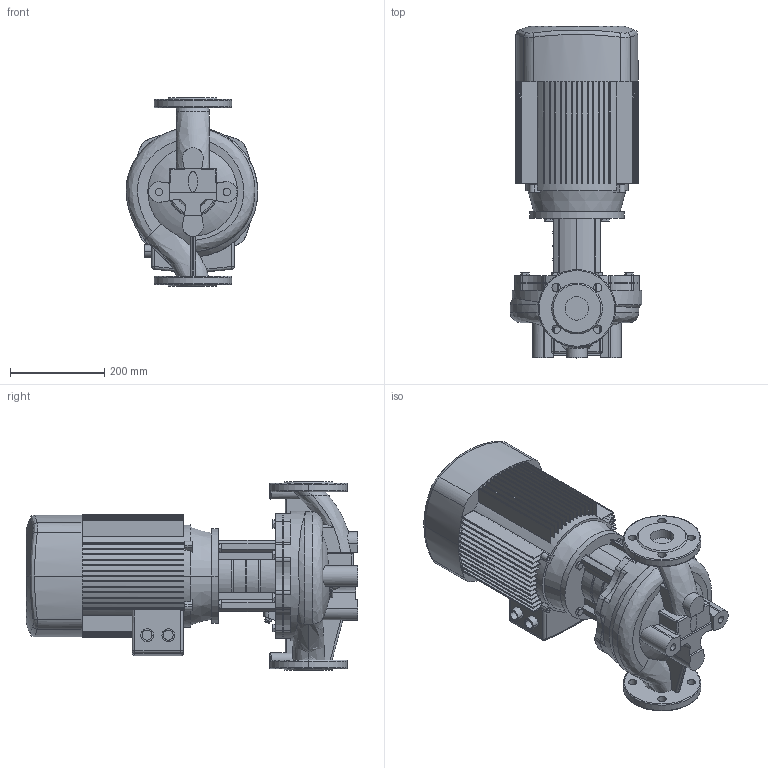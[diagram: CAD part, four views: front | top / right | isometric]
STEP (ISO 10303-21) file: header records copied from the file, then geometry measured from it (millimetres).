
FILE_DESCRIPTION (( 'STEP AP203' ), '1' );
FILE_NAME ('TD50-40G／2.STEP', '2026-09-07T02:16:32', ( '' ), ( '' ), 'SwSTEP 2.0', 'SolidWorks 2020', '' );
FILE_SCHEMA (( 'CONFIG_CONTROL_DESIGN' ));
Length unit declared in the file: millimetre
Products named in the file (1): TD50-40Gㄞ2
Bounding box: 280.04 x 706 x 400 mm (x, y, z)
Volume: 28926327.8 mm3; surface area: 1476928.1 mm2
Topology: 1 solids, 7 shells, 1165 faces, 3112 edges, 2011 vertices
Faces by surface type: plane 637, cylinder 288, cone 128, bspline 57, torus 49, sphere 6
Entity records: 48093 total; most frequent: CARTESIAN_POINT 19206, ORIENTED_EDGE 6216, DIRECTION 5878, EDGE_CURVE 3108, AXIS2_PLACEMENT_3D 2180, VERTEX_POINT 2011, VECTOR 1518, LINE 1518
